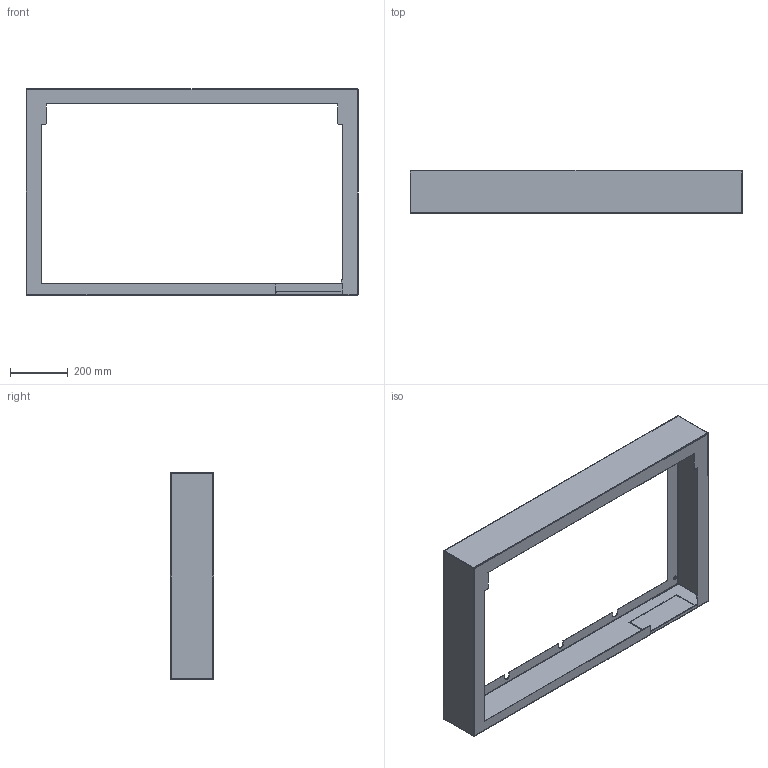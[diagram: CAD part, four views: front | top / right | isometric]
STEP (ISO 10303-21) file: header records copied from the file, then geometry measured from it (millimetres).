
FILE_DESCRIPTION (( 'STEP AP214' ), '1' );
FILE_NAME ('ADAPT 2 (kovinski temelj 150 KPL).STEP', '2026-03-11T10:28:29', ( '' ), ( '' ), 'SwSTEP 2.0', 'SolidWorks 2024', '' );
FILE_SCHEMA (( 'AUTOMOTIVE_DESIGN' ));
Length unit declared in the file: millimetre
Products named in the file (1): ADAPT 2 (kovinski temelj 150 KPL)
Bounding box: 1150 x 150 x 715 mm (x, y, z)
Volume: 1750570.4 mm3; surface area: 1767672.4 mm2
Topology: 1 solids, 1 shells, 249 faces, 697 edges, 445 vertices
Faces by surface type: plane 175, cylinder 41, bspline 20, sphere 9, cone 4
Full cylindrical faces by diameter (mm): 8.376 x2, 12.67 x2, 13 x4
Entity records: 9080 total; most frequent: CARTESIAN_POINT 2866, ORIENTED_EDGE 1340, DIRECTION 1134, EDGE_CURVE 670, LINE 544, VECTOR 544, VERTEX_POINT 439, EDGE_LOOP 309
